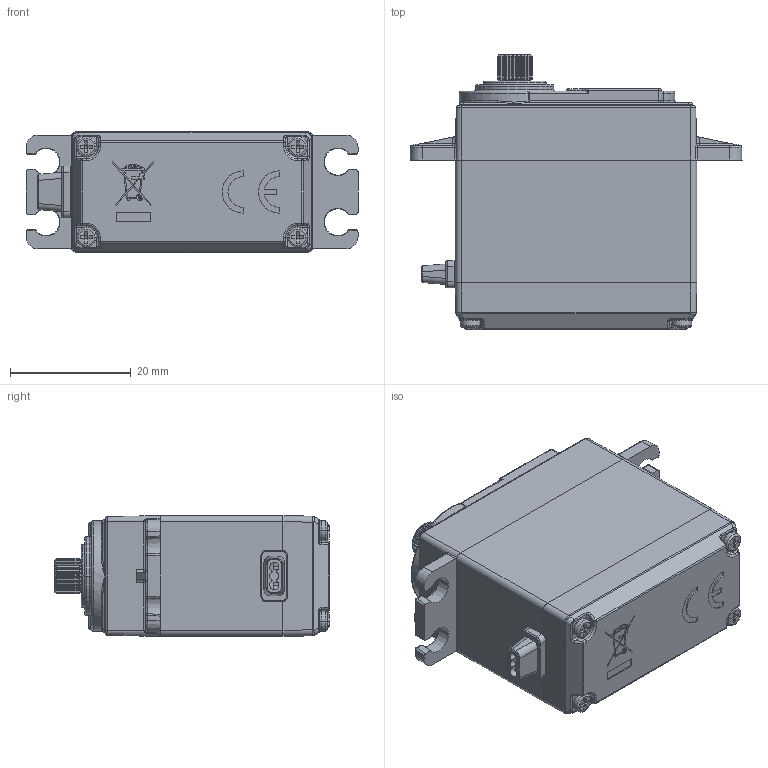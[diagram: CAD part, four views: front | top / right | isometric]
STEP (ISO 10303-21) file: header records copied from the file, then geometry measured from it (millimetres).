
FILE_DESCRIPTION((''),'2;1');
FILE_NAME('DDJ-STD3-B52-MODLE_ASM','2023-09-15T',('Administrator'),(''),'PRO/ENGINEER BY PARAMETRIC TECHNOLOGY CORPORATION, 2010280','PRO/ENGINEER BY PARAMETRIC TECHNOLOGY CORPORATION, 2010280','');
FILE_SCHEMA(('CONFIG_CONTROL_DESIGN','SHAPE_APPEARANCE_LAYERS_GROUPS'));
Products named in the file (8): DDJ-STD3-M; DDJ-STD-5; DDJ-XT-22-3P; DDJ-STD3-T1; DDJ-STD3-B; DDJ-STDCAR-LUOSI-2; DDJ-STD3-T1-MB; DDJ-STD3-B52-MODLE_ASM
Assembly tree (10 placements, depth 2):
  DDJ-STD3-B52-MODLE_ASM
    DDJ-STD3-M
    DDJ-STD-5
    DDJ-XT-22-3P
    DDJ-STD3-T1
    DDJ-STD3-B
    DDJ-STDCAR-LUOSI-2  x4
    DDJ-STD3-T1-MB
Bounding box: 55 x 45.55 x 20 mm (x, y, z)
Volume: 12534.2 mm3; surface area: 18834 mm2
Topology: 10 solids, 10 shells, 1958 faces, 5033 edges, 3151 vertices
Faces by surface type: cylinder 864, plane 591, bspline 186, torus 132, extrusion 72, cone 71, sphere 42
Entity records: 77060 total; most frequent: CARTESIAN_POINT 23355, ORIENTED_EDGE 8752, DIRECTION 8175, PRESENTATION_STYLE_ASSIGNMENT 4383, STYLED_ITEM 4383, CURVE_STYLE 4376, EDGE_CURVE 4376, AXIS2_PLACEMENT_3D 3098
